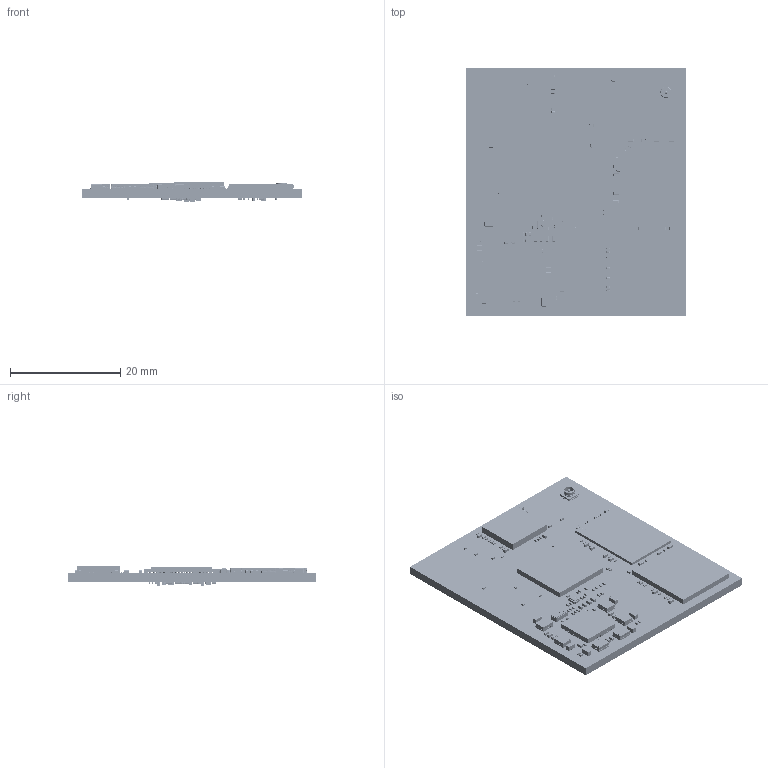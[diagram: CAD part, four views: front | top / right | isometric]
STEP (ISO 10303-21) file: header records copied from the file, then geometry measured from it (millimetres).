
FILE_DESCRIPTION(('Open CASCADE Model'),'2;1');
FILE_NAME('Open CASCADE Shape Model','2023-04-19T15:34:21',('Author'),( 'Open CASCADE'),'Open CASCADE STEP processor 6.8','Open CASCADE 6.8' ,'Unknown');
FILE_SCHEMA(('AUTOMOTIVE_DESIGN { 1 0 10303 214 1 1 1 1 }'));
Length unit declared in the file: millimetre
Products named in the file (305): PCB; Board; Open CASCADE STEP translator 6.8 3.1.1; R92; RESC0603X33; R91; R88; R84; R83; C73; CAPC0603X33; J1; U.FL-R-SMT-1; R26; R16; R10; R2; C126; CAPC1005X55L25; C124; C47; C46; C45; C44; C43; C42; C40; C39; C29; X3; ABS07; R81; R78; R68; R71; R70; R69; X1; OSCCC200X160X59; R73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
Assembly tree (853 placements, depth 5):
  PCB
    Board
      Open CASCADE STEP translator 6.8 3.1.1
    R92
      RESC0603X33
    R91
      RESC0603X33
    R88
      RESC0603X33
    R84
      RESC0603X33
    R83
      RESC0603X33
    C73
      CAPC0603X33
    J1
      U.FL-R-SMT-1
    R26
      RESC0603X33
    R16
      RESC0603X33
    R10
      RESC0603X33
    R2
      RESC0603X33
    C126
      CAPC1005X55L25
    C124
      CAPC1005X55L25
    C47
      CAPC0603X33
    C46
      CAPC0603X33
    C45
      CAPC0603X33
    C44
      CAPC0603X33
    C43
      CAPC0603X33
    C42
      CAPC0603X33
    C40
      CAPC0603X33
    C39
      CAPC0603X33
    C29
      CAPC0603X33
    X3
      ABS07
    R81
      RESC0603X33
    R78
      RESC0603X33
    R68
      RESC0603X33
    R71
      RESC0603X33
    R70
      RESC0603X33
    R69
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Bounding box: 40 x 45 x 3.55 mm (x, y, z)
Volume: 3372.5 mm3; surface area: 7236.1 mm2
Topology: 1671 solids, 1778 shells, 17381 faces, 41711 edges, 25523 vertices
Faces by surface type: plane 8789, cylinder 6417, sphere 1978, bspline 177, torus 10, cone 8, revolution 2
Full cylindrical faces by diameter (mm): 0.4 x1, 0.8 x1
Entity records: 256648 total; most frequent: CARTESIAN_POINT 46085, DIRECTION 40723, ORIENTED_EDGE 37184, EDGE_CURVE 18632, AXIS2_PLACEMENT_3D 14312, VERTEX_POINT 12696, LINE 12097, VECTOR 12097
